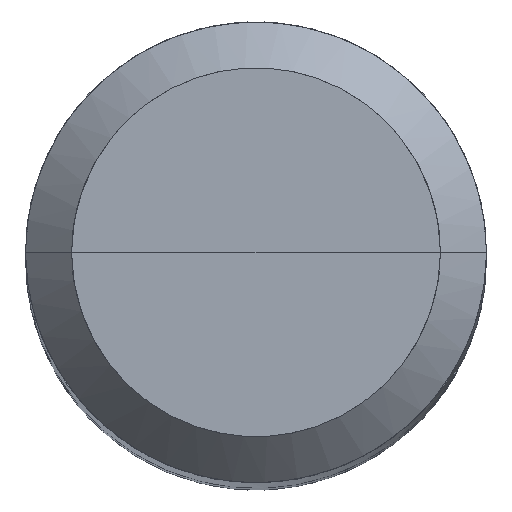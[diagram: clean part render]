
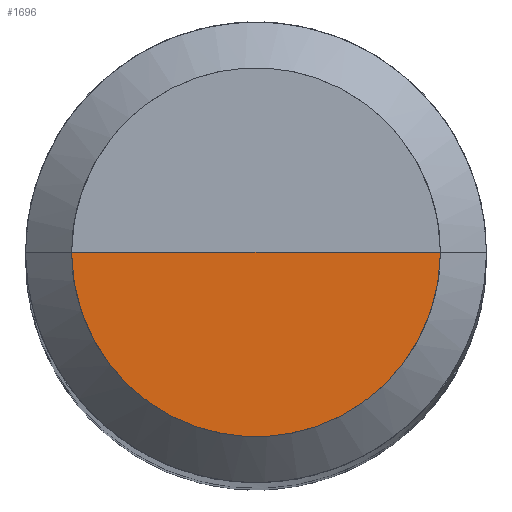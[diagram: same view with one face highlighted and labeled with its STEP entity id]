
A CAD part, top view. The second image highlights one B-rep face of the part: STEP entity #1696.
In plain terms, the highlighted free-form (B-spline) face has degree [1, 2] with [2, 5] control points.
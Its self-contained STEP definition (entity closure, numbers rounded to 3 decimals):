
#1385=CARTESIAN_POINT('',(3.2,0.0,53.0));
#1389=CARTESIAN_POINT('',(-3.2,0.0,53.0));
#1390=CARTESIAN_POINT('',(0.0,0.0,53.0));
#1394=CARTESIAN_POINT('',(-3.2,-3.2,53.0));
#1395=CARTESIAN_POINT('',(0.0,-3.2,53.0));
#1396=CARTESIAN_POINT('',(3.2,-3.2,53.0));
#1681=(
BOUNDED_SURFACE()
B_SPLINE_SURFACE(1,2,(
(#1389,#1394,#1395,#1396,#1385),
(#1390,#1390,#1390,#1390,#1390)
), .UNSPECIFIED.,.F.,.F.,.F.)
B_SPLINE_SURFACE_WITH_KNOTS((2,2),(3,2,3),(
0.0,1.0),(
0.0,0.5,1.0), .UNSPECIFIED.)
GEOMETRIC_REPRESENTATION_ITEM()
RATIONAL_B_SPLINE_SURFACE(((1.0,0.707,1.0,0.707,1.0),
(1.0,0.707,1.0,0.707,1.0)
))
REPRESENTATION_ITEM('')
SURFACE()
);
#1682=(
BOUNDED_CURVE()
B_SPLINE_CURVE(2,(#1385,#1396,#1395,#1394,#1389),.UNSPECIFIED.,.F.,.F.)
B_SPLINE_CURVE_WITH_KNOTS((3,2,3),
(0.0,0.5,1.0),.UNSPECIFIED.)
CURVE()
GEOMETRIC_REPRESENTATION_ITEM()
RATIONAL_B_SPLINE_CURVE((1.0,0.707,1.0,0.707,1.0))
REPRESENTATION_ITEM('')
);
#1683=(
BOUNDED_CURVE()
B_SPLINE_CURVE(1,(#1389,#1390),.UNSPECIFIED.,.F.,.F.)
B_SPLINE_CURVE_WITH_KNOTS((2,2),
(0.0,1.0),.UNSPECIFIED.)
CURVE()
GEOMETRIC_REPRESENTATION_ITEM()
RATIONAL_B_SPLINE_CURVE((1.0,1.0))
REPRESENTATION_ITEM('')
);
#1684=(
BOUNDED_CURVE()
B_SPLINE_CURVE(1,(#1390,#1385),.UNSPECIFIED.,.F.,.F.)
B_SPLINE_CURVE_WITH_KNOTS((2,2),
(0.0,1.0),.UNSPECIFIED.)
CURVE()
GEOMETRIC_REPRESENTATION_ITEM()
RATIONAL_B_SPLINE_CURVE((1.0,1.0))
REPRESENTATION_ITEM('')
);
#1685=VERTEX_POINT('',#1385);
#1686=VERTEX_POINT('',#1389);
#1687=VERTEX_POINT('',#1390);
#1688=EDGE_CURVE('',#1685,#1686,#1682,.T.);
#1689=EDGE_CURVE('',#1686,#1687,#1683,.T.);
#1690=EDGE_CURVE('',#1687,#1685,#1684,.T.);
#1691=ORIENTED_EDGE('',*,*,#1688,.T.);
#1692=ORIENTED_EDGE('',*,*,#1689,.T.);
#1693=ORIENTED_EDGE('',*,*,#1690,.T.);
#1694=EDGE_LOOP('',(#1691,#1692,#1693));
#1695=FACE_OUTER_BOUND('',#1694,.T.);
#1696=ADVANCED_FACE('',(#1695),#1681,.T.);
